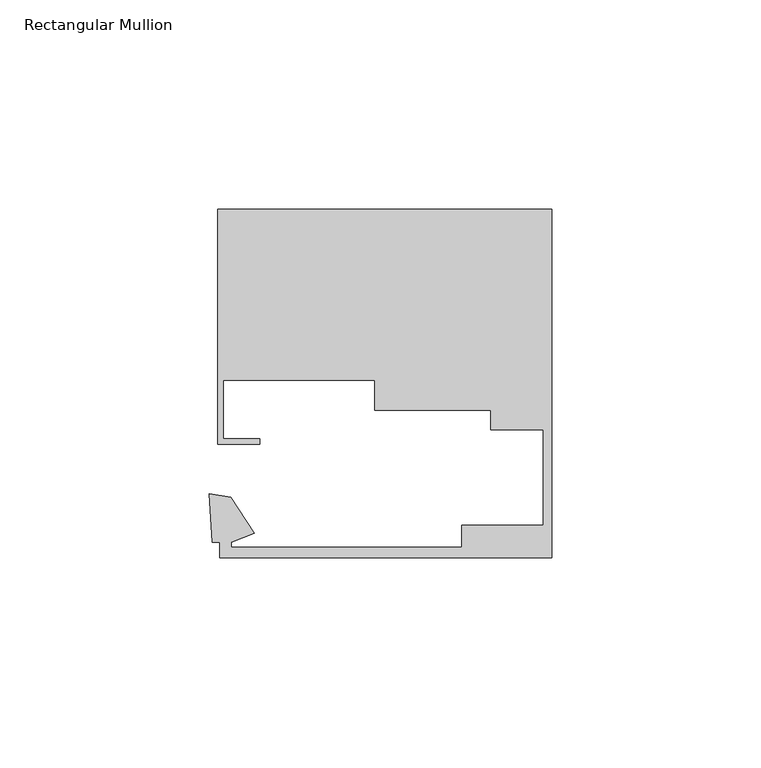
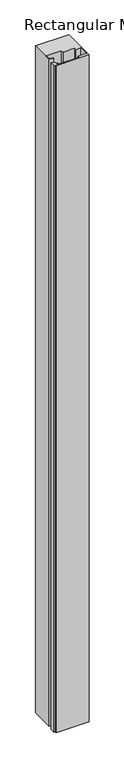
"""IFC4 building model written with IfcOpenShell, lengths in millimetres: member geometry, Rectangular Mullion : Danpal_NM_End-Mullion_B1."""

from ifc_helpers import new_model, si_unit, frame, origin, place, context, project, spatial, polyline, outline, extrude, source, transform, mapped, element, save


def rectangular_mullion_05b556cc(model_context):
    return source(origin(), model_context, "Body", "SweptSolid", [
        extrude(outline(polyline([(0.0, 68.4940825), (0.0, -14.8051514), (-79.3474874, -14.8003189), (-79.3474874, -11.1413992), (-81.1597999, -11.1413992), (-81.8779002, 0.484903), (-76.7540801, -0.319325), (-71.0577359, -9.0180613), (-76.6478166, -11.1168176), (-76.6478166, -12.3181946), (-21.5478166, -12.3181946), (-21.5478166, -7.1181946), (-2.0000001, -7.1181946), (-2.0000001, 15.7940824), (-14.6000003, 15.7940824), (-14.6000003, 20.3492381), (-42.2684147, 20.3894746), (-42.2578709, 27.6399085), (-78.4582695, 27.6399085), (-78.4582695, 13.5916994), (-69.8282946, 13.5916994), (-69.8282946, 12.280939), (-79.7784606, 12.280939), (-79.7784606, 68.4940825), (0.0, 68.4940825)])), frame((0.0, 0.0, -1684.8416832), z_axis=(0.0, 0.0, 1.0), x_axis=(1.0, 0.0, 0.0)), (0.0, 0.0, 1.0), 1684.8416832),
    ])


if __name__ == "__main__":
    model = new_model("IFC4")
    model_context = context("Model", 3, world=origin())
    ifc_project = project(units=[si_unit("LENGTHUNIT", "METRE", prefix="MILLI")], contexts=[model_context])
    site = spatial("IfcSite", under=ifc_project)
    building = spatial("IfcBuilding", under=site)
    placement = place(None, origin())
    rectangular_mullion_shape = rectangular_mullion_05b556cc(model_context)
    element("IfcMember", 1, ObjectType="Rectangular Mullion : Danpal_NM_End-Mullion_B1", at=placement, inside=building, context=model_context, shape_type="MappedRepresentation", body=[
        mapped(rectangular_mullion_shape, transform((0.0, 0.0, 0.0), x_axis=(1.0, 0.0, 0.0), y_axis=(0.0, 1.0, 0.0), z_axis=(0.0, 0.0, 1.0))),
    ])
    save(model, "model.ifc")
